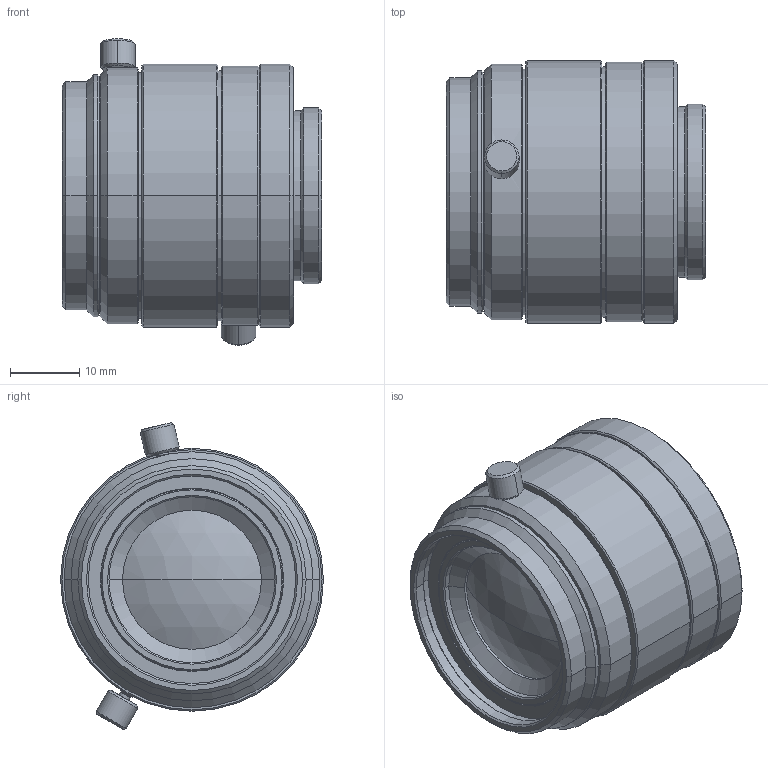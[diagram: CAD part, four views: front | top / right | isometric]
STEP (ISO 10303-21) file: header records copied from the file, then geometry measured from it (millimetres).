
FILE_DESCRIPTION (( 'STEP AP203' ), '1' );
FILE_NAME ('VS-2514H1.STEP', '2016-12-08T04:08:40', ( 'miura_vst' ), ( '' ), 'SwSTEP 2.0', 'SolidWorks 2016', '' );
FILE_SCHEMA (( 'CONFIG_CONTROL_DESIGN' ));
Length unit declared in the file: millimetre
Products named in the file (1): VS-2514H1
Bounding box: 37.47 x 38 x 44.32 mm (x, y, z)
Volume: 33946.1 mm3; surface area: 7670.7 mm2
Topology: 1 solids, 1 shells, 126 faces, 250 edges, 145 vertices
Faces by surface type: cone 60, cylinder 44, plane 20, sphere 2
Entity records: 3365 total; most frequent: DIRECTION 642, CARTESIAN_POINT 582, ORIENTED_EDGE 500, AXIS2_PLACEMENT_3D 269, EDGE_CURVE 250, VERTEX_POINT 145, EDGE_LOOP 145, CIRCLE 142
